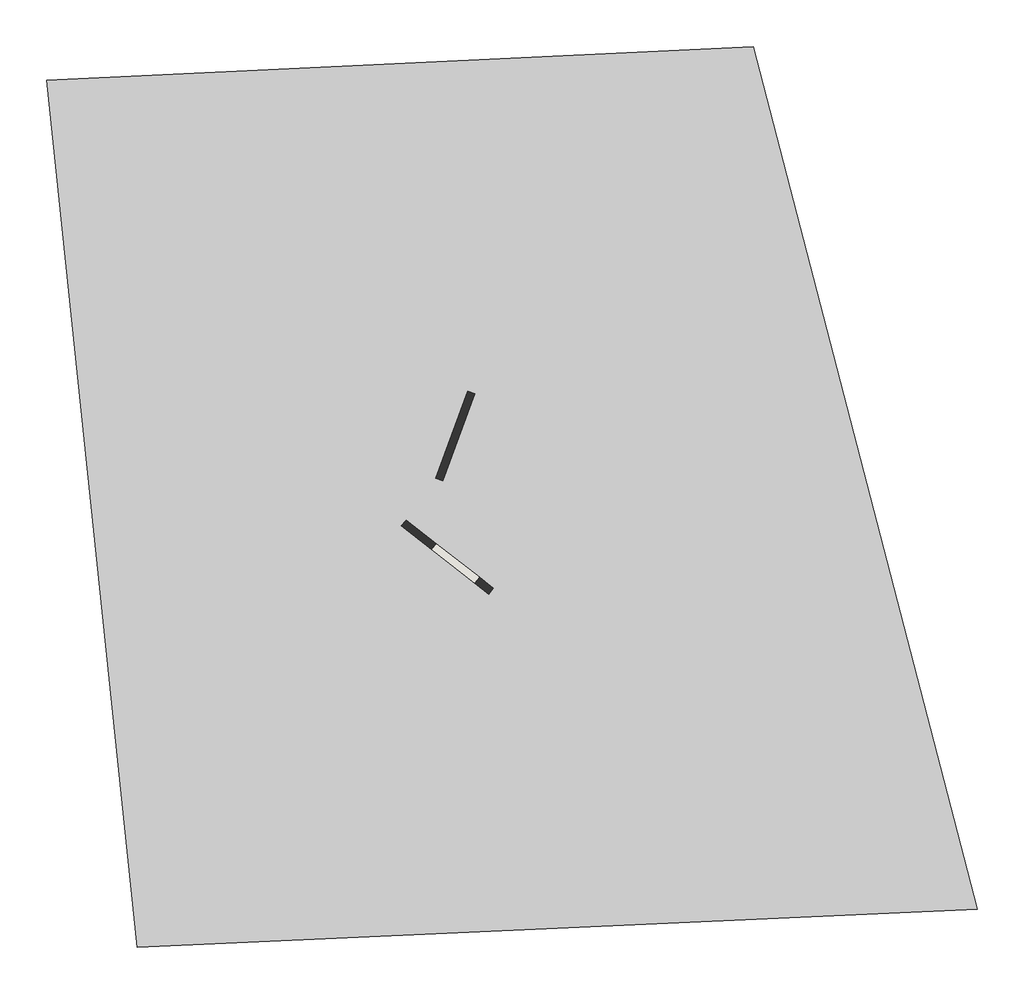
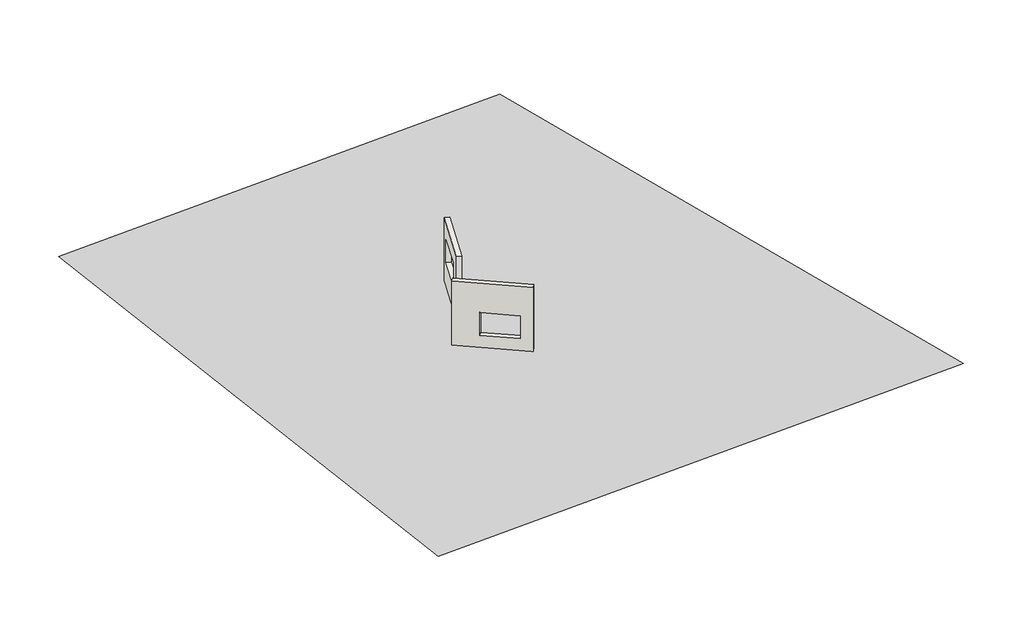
# One storey: 2 walls, 1 proxy.
"""IFC4 building model written with IfcOpenShell, lengths in millimetres."""

from ifc_helpers import new_model, si_unit, frame, origin, place, context, project, spatial, polyline, outline, extrude, triangles, element, save

model = new_model("IFC4")

# Units and contexts
model_context = context("Model", 3, world=origin())
ifc_project = project(units=[si_unit("LENGTHUNIT", "METRE", prefix="MILLI")], contexts=[model_context])

# Site, building, storey
site = spatial("IfcSite", under=ifc_project)
building = spatial("IfcBuilding", under=site)
storey = spatial("IfcBuildingStorey", under=building, Name="室外地坪", Elevation=-600.0)

# Proxy
placement = place(None, origin())
element("IfcBuildingElementProxy", 1, Name="Building Element Proxy", at=placement, inside=storey, context=model_context, shape_type="Tessellation", body=[
    triangles([(-40806.2999268, -13914.6774078, -600.0000046), (-12648.4488831, -12579.6368042, -600.0000046), (-3705.3927223, -46959.3708618, -600.0000046), (-37197.3062622, -48484.1940674, -600.0000046)], [[1, 4, 2], [3, 2, 4]], closed=False),
])

# Walls
element("IfcWall", 2, ObjectType="F2-F5-240mm-外牆", at=placement, inside=storey, context=model_context, shape_type="SweptSolid", body=[
    extrude(outline(polyline([(-3700.0000001, 0.0), (0.0, 0.0), (0.0, -4320.0), (-3700.0000001, -4320.0), (-3700.0000001, 0.0)]), holes=[polyline([(-500.0, -3220.0), (-500.0, -1720.0), (-2700.0, -1720.0), (-2700.0, -3220.0), (-500.0, -3220.0)])]), frame((-23741.9679147, -26417.196881, -720.0), z_axis=(-0.9396926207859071, 0.3420201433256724, 0.0), x_axis=(0.3420201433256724, 0.9396926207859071, 0.0)), (0.0, 0.0, 1.0), 300.0),
])
element("IfcWall", 3, ObjectType="F2-F5-240mm-外牆", at=placement, inside=storey, context=model_context, shape_type="SweptSolid", body=[
    extrude(outline(polyline([(-980.0, 0.0), (3440.0, 0.0), (3440.0, -4320.0), (-980.0, -4320.0), (-980.0, 0.0)]), holes=[polyline([(2740.0, -2400.0), (2740.0, -900.0), (540.0, -900.0), (540.0, -2400.0), (2740.0, -2400.0)])]), frame((-25889.6961409, -32290.0929086, -720.0), z_axis=(0.6156614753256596, 0.788010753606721, 0.0), x_axis=(0.788010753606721, -0.6156614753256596, 0.0)), (0.0, 0.0, 1.0), 300.0),
])

save(model, "model.ifc")
